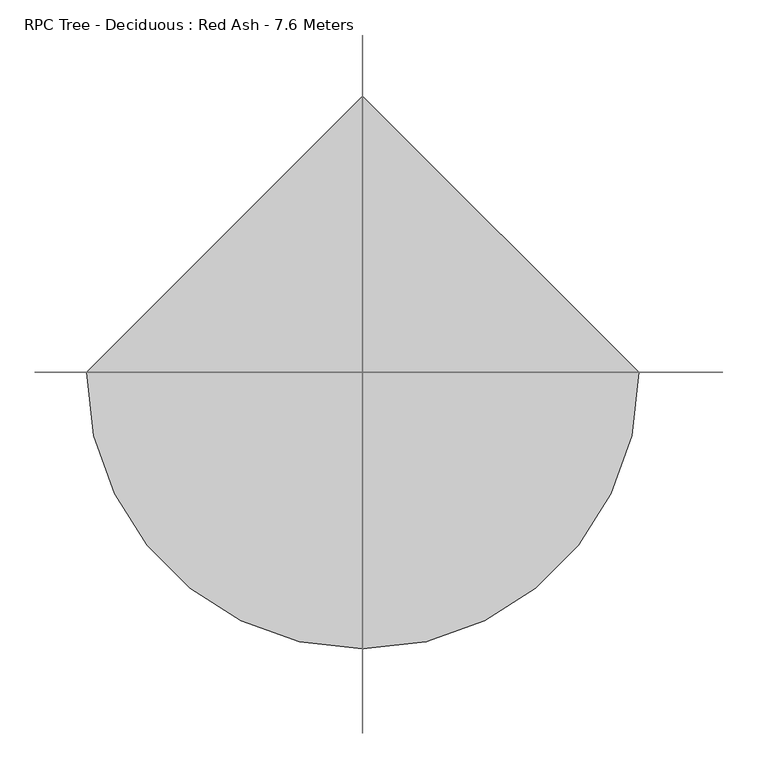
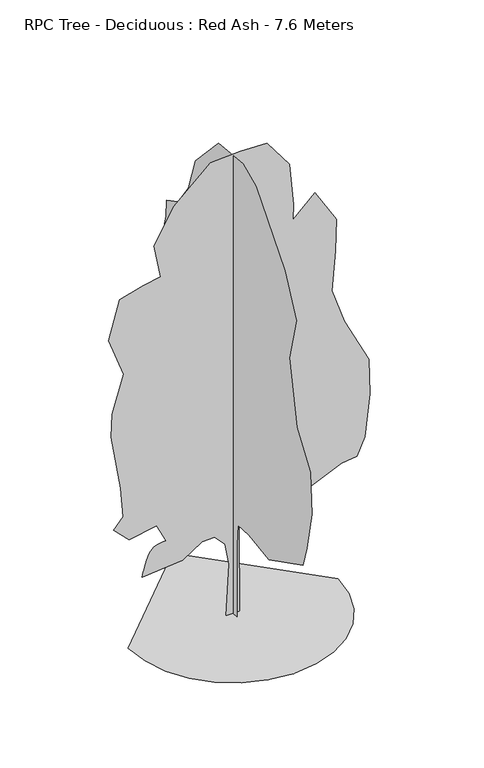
"""IFC4 building model written with IfcOpenShell, lengths in millimetres: geographic element geometry, RPC Tree - Deciduous : Red Ash - 7.6 Meters."""

from ifc_helpers import new_model, si_unit, origin, place, context, project, spatial, triangles, source, transform, mapped, element, save


def rpc_tree_deciduous_red_ash_7_6_meters_16c8020d(model_context):
    return source(origin(), model_context, "Body", "Tessellation", [
        triangles([(-1640.6350319, 0.0, 6.17e-05), (-1597.2618073, -375.9250554, 6.17e-05), (-1473.7362076, -721.1521299, 6.17e-05), (-1279.9481815, -1025.7899305, 6.17e-05), (-1025.7900759, -1279.9483269, 6.17e-05), (-721.1519119, -1473.7357716, 6.17e-05), (-375.9249101, -1597.2618073, 6.17e-05), (7.17e-05, -1640.6350319, 6.17e-05), (375.9250917, -1597.2619526, 6.17e-05), (721.1521299, -1473.7360622, 6.17e-05), (1025.7900759, -1279.9481815, 6.17e-05), (1279.9486176, -1025.7900759, 6.17e-05), (1473.7359169, -721.1518393, 6.17e-05), (1597.2618073, -375.9248011, 6.17e-05), (1640.6350319, 0.0001434, 6.17e-05), (-0.0002151, 1640.6350319, 6.17e-05), (-1.07e-05, -102.5763152, 0.0), (2.5e-05, -100.9809819, 1191.4187742), (3.22e-05, -129.5410573, 1533.7667004), (7e-07, -437.6736119, 1554.0757805), (-5.76e-05, -973.8285673, 1474.4268631), (-0.0001401, -1898.6961697, 1943.5624718), (-0.0001409, -2005.9272697, 2292.063438), (-0.0001357, -2139.9660358, 2935.4493118), (-0.0001116, -2099.7546822, 3605.6435783), (-5.8e-05, -1735.814106, 4130.1484818), (-5.5e-06, -1523.3897175, 5147.0898972), (-3.5e-06, -1711.0423622, 5870.899205), (4.78e-05, -1402.7536217, 6514.2855148), (0.0001565, -625.3287638, 7439.1534805), (0.000198, -272.4836404, 7598.1990051), (0.0002655, 393.3664327, 7532.9808929), (0.0003113, 1023.3488731, 6862.7869171), (0.0003141, 1211.0034073, 6299.8236053), (0.0003314, 1492.4837551, 5897.706871), (0.0003588, 1800.7742397, 5736.8608749), (0.0003522, 1814.1780727, 5468.7830521), (0.0003514, 1894.6015068, 5160.4937302), (0.0003267, 1760.5627407, 4798.5890762), (0.0003288, 1881.1975285, 4450.088546), (0.000327, 2001.8324615, 3967.5488136), (0.0003203, 1975.0247955, 3833.5096115), (0.0002869, 1747.159053, 3511.8164566), (0.0002722, 1732.7516476, 3069.4885139), (0.0002625, 1720.3510963, 2788.0068581), (0.0002535, 1733.7549294, 2439.5063278), (0.0002406, 1747.159053, 1956.9668861), (0.0002166, 1559.5045189, 1809.523851), (0.0001802, 1211.0038433, 1809.523851), (0.0001822, 1371.8504208, 1313.580431), (0.0001711, 1344.9556961, 1032.1683203), (0.0001512, 1100.1359739, 1224.6137684), (9.84e-05, 627.810589, 1103.8028286), (9.77e-05, 550.2637599, 1353.49907), (6.27e-05, 215.346067, 1350.4488201), (5.01e-05, 130.4579254, 1225.1105404), (3.26e-05, 79.3405423, 816.1354311), (1.17e-05, 111.8716144, 1.28e-05), (-110.5798692, 4.8e-06, 4.45e-05), (-66.5363775, -9.62e-05, 831.3140104), (-128.9679092, -0.0001356, 1184.825572), (-290.0246482, -0.0001497, 1361.7341778), (-482.3670685, -0.0001405, 1355.1302204), (-794.1778324, -0.0001027, 1152.7338535), (-1424.1601639, -6.88e-05, 1099.1184488), (-1415.4458702, -7.33e-05, 1133.7810133), (-1406.1451298, -7.8e-05, 1169.6158899), (-1395.6722225, -8.3e-05, 1207.7952456), (-1383.4407017, -8.85e-05, 1249.4921917), (-1368.8645565, -9.46e-05, 1295.8774418), (-1351.3574856, -0.0001016, 1348.1257061), (-1330.3333328, -0.0001096, 1407.4074074), (-1303.8382931, -0.0001173, 1462.3908245), (-1271.0123898, -0.0001236, 1502.6024689), (-1232.9109364, -0.0001286, 1530.5039635), (-1190.588883, -0.0001326, 1548.5586754), (-1145.1018339, -0.0001358, 1559.2267742), (-1097.5041578, -0.0001386, 1564.971191), (-1048.8515316, -0.0001411, 1568.2539848), (-1196.294058, -0.0001698, 1863.1393284), (-1625.218531, -0.0001415, 1782.7160397), (-1866.4879612, -0.0001597, 2023.9861965), (-1719.0452168, -0.0001869, 2198.236607), (-1759.2568611, -0.0002427, 2680.7764847), (-1906.6994602, -0.0003433, 3578.8359123), (-1893.4979404, -0.0003882, 3950.7687332), (-1715.4032879, -0.0004676, 4551.3483536), (-1946.9112499, -0.0005333, 5187.3013962), (-1772.6605488, -0.0006144, 5803.88004), (-1410.7561855, -0.000643, 5911.1112854), (-1135.4252443, -0.0006608, 5959.6792511), (-1236.5059204, -0.0007209, 6500.8816818), (-928.2163805, -0.0007999, 7050.4411606), (-351.8493811, -0.0008874, 7573.192392), (117.2860368, -0.0009111, 7600.000058), (532.8066133, -0.0009277, 7586.5956436), (881.3074705, -0.000887, 7117.4603256), (945.3842279, -0.0008079, 6430.5952744), (936.1832634, -0.0007775, 6178.7100677), (1283.4236961, -0.0008311, 6500.8816818), (1618.5208294, -0.0007802, 5951.3222031), (1605.1169964, -0.0007177, 5432.2143539), (1545.3907001, -0.0006383, 4788.0519287), (1739.1557625, -0.0005793, 4222.2222221), (2126.1689129, -0.0005054, 3460.0925789), (2138.5076946, -0.0004374, 2885.2169128), (2060.8486267, -0.0003521, 2198.2364616), (1940.213839, -0.0003133, 1916.7548058), (1698.9439728, -0.0002996, 1889.9471397), (1229.8082188, -0.0002535, 1675.4849396), (814.2876514, -0.0002002, 1380.5997414), (256.8007496, -0.0002044, 1620.3048775), (92.8066444, -0.0001762, 1443.8352711), (103.8818677, -4.5e-06, 3.51e-05)], [[15, 16, 1], [14, 15, 1], [14, 1, 2], [13, 14, 2], [13, 2, 3], [13, 3, 4], [12, 13, 4], [11, 12, 4], [11, 4, 5], [11, 5, 6], [11, 6, 7], [11, 7, 8], [11, 8, 9], [11, 9, 10], [50, 51, 52], [57, 58, 17], [57, 17, 18], [56, 57, 18], [56, 18, 19], [55, 56, 19], [49, 50, 52], [52, 53, 54], [49, 52, 54], [35, 36, 37], [46, 47, 48], [46, 48, 49], [21, 22, 23], [20, 21, 23], [20, 23, 24], [20, 24, 25], [20, 25, 26], [19, 20, 26], [19, 26, 27], [45, 46, 49], [31, 32, 33], [30, 31, 33], [29, 30, 33], [29, 33, 34], [28, 29, 34], [27, 28, 34], [19, 27, 34], [19, 34, 35], [19, 35, 37], [19, 37, 38], [19, 38, 39], [19, 39, 40], [19, 40, 41], [19, 41, 42], [19, 42, 43], [19, 43, 44], [19, 44, 45], [19, 45, 49], [19, 49, 54], [55, 19, 54], [64, 65, 66], [64, 66, 67], [64, 67, 68], [99, 100, 101], [64, 68, 69], [64, 69, 70], [64, 70, 71], [114, 59, 60], [113, 114, 60], [113, 60, 61], [113, 61, 62], [64, 71, 72], [64, 72, 73], [64, 73, 74], [64, 74, 75], [64, 75, 76], [64, 76, 77], [64, 77, 78], [64, 78, 79], [63, 64, 79], [81, 82, 83], [80, 81, 83], [99, 101, 102], [107, 108, 109], [110, 111, 112], [88, 89, 90], [87, 88, 90], [87, 90, 91], [80, 83, 84], [95, 96, 97], [95, 97, 98], [94, 95, 98], [93, 94, 98], [92, 93, 98], [91, 92, 98], [91, 98, 99], [87, 91, 99], [87, 99, 102], [87, 102, 103], [87, 103, 104], [86, 87, 104], [85, 86, 104], [84, 85, 104], [80, 84, 104], [80, 104, 105], [80, 105, 106], [80, 106, 107], [80, 107, 109], [80, 109, 110], [80, 110, 112], [79, 80, 112], [63, 79, 112], [62, 63, 112], [113, 62, 112]], closed=False),
    ])


if __name__ == "__main__":
    model = new_model("IFC4")
    model_context = context("Model", 3, world=origin())
    ifc_project = project(units=[si_unit("LENGTHUNIT", "METRE", prefix="MILLI")], contexts=[model_context])
    site = spatial("IfcSite", under=ifc_project)
    building = spatial("IfcBuilding", under=site)
    placement = place(None, origin())
    rpc_tree_deciduous_red_ash_7_6_meters_shape = rpc_tree_deciduous_red_ash_7_6_meters_16c8020d(model_context)
    element("IfcGeographicElement", 1, ObjectType="RPC Tree - Deciduous : Red Ash - 7.6 Meters", at=placement, inside=building, context=model_context, shape_type="MappedRepresentation", body=[
        mapped(rpc_tree_deciduous_red_ash_7_6_meters_shape, transform((0.0, 0.0, 0.0), x_axis=(1.0, 0.0, 0.0), y_axis=(0.0, 1.0, 0.0), z_axis=(0.0, 0.0, 1.0))),
    ])
    save(model, "model.ifc")
